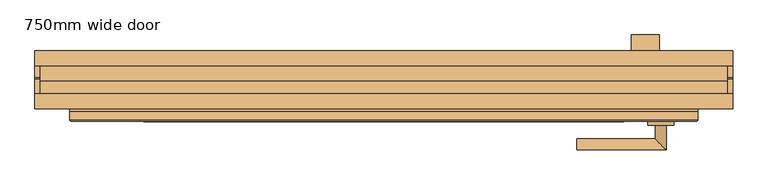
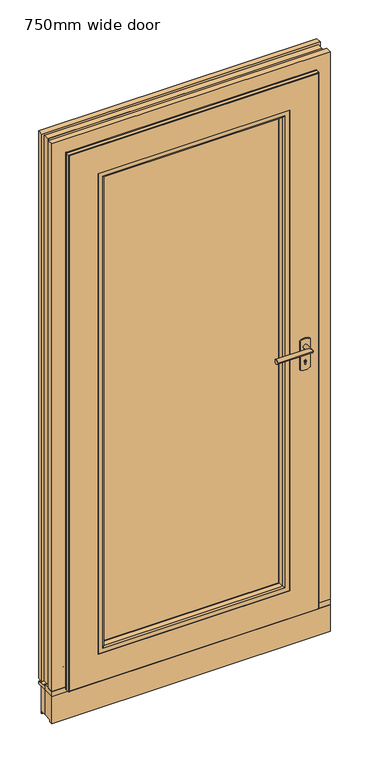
"""IFC4 building model written with IfcOpenShell, lengths in millimetres: door geometry, Doors_GEALAN_S9000_Front-Door : 750mm wide door."""

from ifc_helpers import new_model, si_unit, point, frame, frame_2d, origin, origin_with_axes, place, context, project, spatial, polyline, circle_curve, ellipse_curve, trimmed, segment, composite_curve, outline, extrude, faceted_brep, source, transform, mapped, element, save
from ifc_brep_helpers import plane_surface, cylinder_surface, revolved_surface, advanced_brep


def door_750mm_wide_door_e546be3d(model_context):
    return source(origin(), model_context, "Body", "SolidModel", [
        extrude(outline(polyline([(31.5, 680.9999998), (31.5, 693.9777955), (60.0111021, 693.9777955), (60.0111021, 1380.9999998), (31.5, 1380.9999998), (31.5, 1393.9777955), (72.9888979, 1393.9777955), (72.9888979, 680.9999998), (31.5, 680.9999998)])), frame((355.0988556, 0.0, 0.0), z_axis=(1.0, 0.0, 0.0), x_axis=(0.0, 1.0, 0.0)), (0.0, 0.0, 1.0), 39.8022889),
        advanced_brep(
        [(388.9719061, -56.0, 1030.9999998), (405.0280939, -56.0, 1030.9999998), (388.9719061, -75.4719061, 1030.9999998), (405.0280939, -91.5280939, 1030.9999998), (277.0, -75.4719061, 1030.9999998), (277.0, -91.5280939, 1030.9999998)],
        [
            (0, 1, circle_curve(frame((397.0, -56.0, 1030.9999998), z_axis=(0.0, 1.0, 0.0), x_axis=(1.0, 0.0, 0.0)), 8.0280939)),
            (1, 0, circle_curve(frame((397.0, -56.0, 1030.9999998), z_axis=(0.0, 1.0, 0.0), x_axis=(1.0, 0.0, 0.0)), 8.0280939)),
            (0, 2),
            (2, 3, ellipse_curve(frame((397.0, -83.5, 1030.9999998), z_axis=(0.7071067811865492, 0.7071067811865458, 0.0), x_axis=(-0.7071067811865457, 0.7071067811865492, 0.0)), 11.3534392, 8.0280939)),
            (3, 1),
            (3, 2, ellipse_curve(frame((397.0, -83.5, 1030.9999998), z_axis=(0.7071067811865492, 0.7071067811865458, 0.0), x_axis=(-0.7071067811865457, 0.7071067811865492, 0.0)), 11.3534392, 8.0280939)),
            (4, 5, circle_curve(frame((277.0, -83.5, 1030.9999998), z_axis=(-1.0, 0.0, 0.0), x_axis=(0.0, -1.0, 0.0)), 8.0280939)),
            (5, 4, circle_curve(frame((277.0, -83.5, 1030.9999998), z_axis=(-1.0, 0.0, 0.0), x_axis=(0.0, -1.0, 0.0)), 8.0280939)),
            (2, 4),
            (5, 3),
        ],
        [
            plane_surface(frame((397.0, -56.0, 1030.9999998), z_axis=(0.0, 1.0, 0.0), x_axis=(0.0, 0.0, 1.0))),
            cylinder_surface(frame((397.0, -56.0, 1030.9999998), z_axis=(0.0, 1.0, 0.0), x_axis=(1.0, 0.0, 0.0)), 8.0280939),
            plane_surface(frame((277.0, -83.5, 1030.9999998), z_axis=(-1.0, 0.0, 0.0), x_axis=(0.0, 0.0, 1.0))),
            cylinder_surface(frame((397.0, -83.5, 1030.9999998), z_axis=(1.0, 0.0, 0.0), x_axis=(0.0, -1.0, 0.0)), 8.0280939),
        ],
        [
            (0, [[1, 2]]),
            (1, [[-1, 3, 4, 5]]),
            (1, [[-2, -5, 6, -3]]),
            (2, [[7, 8]]),
            (3, [[-4, 9, -8, 10]]),
            (3, [[-6, -10, -7, -9]]),
        ],
    ),
        advanced_brep(
        [(397.0, -51.0, 1060.4999998), (415.5, -51.0, 1055.4999998), (415.5, -51.0, 947.4999998), (397.0, -51.0, 942.4999998), (378.5, -51.0, 947.4999998), (378.5, -51.0, 1055.4999998), (398.9792033, -51.0, 972.009504), (395.0207967, -51.0, 972.009504), (395.0207967, -51.0, 965.740473), (398.9792033, -51.0, 965.740473), (378.5, -56.0, 1055.4999998), (378.5, -56.0, 947.4999998), (397.0, -56.0, 1060.4999998), (397.0, -56.0, 942.4999998), (415.5, -56.0, 947.4999998), (415.5, -56.0, 1055.4999998), (395.0207967, -56.0, 972.009504), (398.9792033, -56.0, 972.009504), (398.9792033, -56.0, 965.740473), (395.0207967, -56.0, 965.740473)],
        [
            (0, 1, circle_curve(frame((397.0, -51.0, 1023.7749998), z_axis=(0.0, 1.0, 0.0), x_axis=(1.0, 0.0, 0.0)), 36.725)),
            (1, 2),
            (2, 3, circle_curve(frame((397.0, -51.0, 979.2249998), z_axis=(0.0, 1.0, 0.0), x_axis=(1.0, 0.0, 0.0)), 36.725)),
            (3, 4, circle_curve(frame((397.0, -51.0, 979.2249998), z_axis=(0.0, 1.0, 0.0), x_axis=(1.0, 0.0, 0.0)), 36.725)),
            (4, 5),
            (5, 0, circle_curve(frame((397.0, -51.0, 1023.7749998), z_axis=(0.0, 1.0, 0.0), x_axis=(1.0, 0.0, 0.0)), 36.725)),
            (6, 7, circle_curve(frame((397.0, -51.0, 975.5006417), z_axis=(0.0, -1.0, 0.0), x_axis=(1.0, 0.0, 0.0)), 4.0131394)),
            (7, 8),
            (8, 9, circle_curve(frame((397.0, -51.0, 965.740473), z_axis=(0.0, -1.0, 0.0), x_axis=(1.0, 0.0, 0.0)), 1.9792033)),
            (9, 6),
            (10, 5),
            (4, 11),
            (11, 10),
            (12, 10, circle_curve(frame((397.0, -56.0, 1023.7749998), z_axis=(0.0, -1.0, 0.0), x_axis=(1.0, 0.0, 0.0)), 36.725)),
            (11, 13, circle_curve(frame((397.0, -56.0, 979.2249998), z_axis=(0.0, -1.0, 0.0), x_axis=(1.0, 0.0, 0.0)), 36.725)),
            (13, 14, circle_curve(frame((397.0, -56.0, 979.2249998), z_axis=(0.0, -1.0, 0.0), x_axis=(1.0, 0.0, 0.0)), 36.725)),
            (14, 15),
            (15, 12, circle_curve(frame((397.0, -56.0, 1023.7749998), z_axis=(0.0, -1.0, 0.0), x_axis=(1.0, 0.0, 0.0)), 36.725)),
            (16, 17, circle_curve(frame((397.0, -56.0, 975.5006417), z_axis=(0.0, 1.0, 0.0), x_axis=(1.0, 0.0, 0.0)), 4.0131394)),
            (17, 18),
            (18, 19, circle_curve(frame((397.0, -56.0, 965.740473), z_axis=(0.0, 1.0, 0.0), x_axis=(1.0, 0.0, 0.0)), 1.9792033)),
            (19, 16),
            (1, 15),
            (14, 2),
            (6, 17),
            (16, 7),
            (19, 8),
            (18, 9),
        ],
        [
            plane_surface(frame((415.5, -51.0, 1060.4999998), z_axis=(0.0, 1.0, 0.0), x_axis=(0.0, 0.0, -1.0))),
            plane_surface(frame((378.5, -51.0, 1060.4999998), z_axis=(-1.0, 0.0, 0.0), x_axis=(0.0, 0.0, -1.0))),
            plane_surface(frame((378.5, -56.0, 1060.4999998), z_axis=(0.0, -1.0, 0.0), x_axis=(0.0, 0.0, -1.0))),
            plane_surface(frame((415.5, -56.0, 1060.4999998), z_axis=(1.0, 0.0, 0.0), x_axis=(0.0, 0.0, -1.0))),
            revolved_surface(polyline([(401.0131394, -56.0, 975.5006417), (401.0131394, -51.0, 975.5006417)]), (397.0, -46.0, 975.5006417), (0.0, -1.0, 0.0)),
            plane_surface(frame((395.0207967, -296.0, 972.009504), z_axis=(1.0, 0.0, 0.0), x_axis=(0.0, 1.0, 0.0))),
            revolved_surface(polyline([(398.9792033, -56.0, 965.740473), (398.9792033, -51.0, 965.740473)]), (397.0, -46.0, 965.740473), (0.0, -1.0, 0.0)),
            plane_surface(frame((398.9792033, -296.0, 965.740473), z_axis=(-1.0, 0.0, 0.0), x_axis=(0.0, 1.0, 0.0))),
            cylinder_surface(frame((397.0, -46.0, 1023.7749998), z_axis=(0.0, 1.0, 0.0), x_axis=(1.0, 0.0, 0.0)), 36.725),
            cylinder_surface(frame((397.0, -46.0, 979.2249998), z_axis=(0.0, 1.0, 0.0), x_axis=(1.0, 0.0, 0.0)), 36.725),
        ],
        [
            (0, [[1, 2, 3, 4, 5, 6], [7, 8, 9, 10]]),
            (1, [[11, -5, 12, 13]]),
            (2, [[14, -13, 15, 16, 17, 18], [19, 20, 21, 22]]),
            (3, [[23, -17, 24, -2]]),
            (4, [[25, -19, 26, -7]]),
            (5, [[-26, -22, 27, -8]]),
            (6, [[-27, -21, 28, -9]]),
            (7, [[-25, -10, -28, -20]]),
            (8, [[-1, -6, -11, -14, -18, -23]]),
            (9, [[-4, -3, -24, -16, -15, -12]]),
        ],
    ),
        extrude(outline(polyline([(-339.0, 13.5), (339.0, 13.5), (339.0, -26.5), (-339.0, -26.5), (-339.0, 13.5)])), frame((0.0, 0.0, 122.9999998), z_axis=(0.0, 0.0, 1.0), x_axis=(1.0, 0.0, 0.0)), (0.0, 0.0, 1.0), 1816.0),
        extrude(outline(polyline([(129.2876963, -332.7123035), (129.2876963, 332.7123035), (1932.7123033, 332.7123035), (1932.7123033, -332.7123035), (129.2876963, -332.7123035)]), holes=[polyline([(1917.7123033, -317.7123035), (1917.7123033, 317.7123035), (144.2876963, 317.7123035), (144.2876963, -317.7123035), (1917.7123033, -317.7123035)])]), frame((0.0, 13.5, 0.0), z_axis=(0.0, 1.0, 0.0), x_axis=(0.0, 0.0, 1.0)), (0.0, 0.0, 1.0), 3.0),
        extrude(outline(polyline([(132.4987826, -329.5012172), (132.4987826, 329.5012172), (1929.501217, 329.5012172), (1929.501217, -329.5012172), (132.4987826, -329.5012172)]), holes=[polyline([(1918.001217, -318.0012172), (1918.001217, 318.0012172), (143.9987826, 318.0012172), (143.9987826, -318.0012172), (1918.001217, -318.0012172)])]), frame((0.0, -29.0, 0.0), z_axis=(0.0, 1.0, 0.0), x_axis=(0.0, 0.0, 1.0)), (0.0, 0.0, 1.0), 2.5),
        extrude(outline(polyline([(11.9999998, -450.0), (11.9999998, 450.0), (2049.9999998, 450.0), (2049.9999998, -450.0), (11.9999998, -450.0)]), holes=[polyline([(2041.1999998, -441.2), (2041.1999998, 441.2), (20.7999998, 441.2), (20.7999998, -441.2), (2041.1999998, -441.2)])]), frame((0.0, -36.0, 0.0), z_axis=(0.0, 1.0, 0.0), x_axis=(0.0, 0.0, 1.0)), (0.0, 0.0, 1.0), 3.5),
        advanced_brep(
        [(-325.9578203, 31.4881012, 1925.95782), (-320.5399484, 27.0529143, 1920.5399482), (-320.5399484, 27.0529143, 141.4600514), (-325.9578203, 31.4881012, 136.0421795), (-421.9644818, 10.0317805, 2021.9644816), (-421.9644818, 31.4881012, 2021.9644816), (-421.9644818, 31.4881012, 40.0355179), (-421.9644818, 10.0317805, 40.0355179), (-430.0, -10.0, 2029.9999998), (-430.0, 10.0317805, 2029.9999998), (-430.0, 10.0317805, 31.9999998), (-430.0, -10.0, 31.9999998), (-348.1, 16.5, 1948.0999998), (-348.1, -10.0, 1948.0999998), (-348.1, -10.0, 113.8999998), (-348.1, 16.5, 113.8999998), (-317.7123035, 16.5, 1917.7123033), (-317.7123035, 16.5, 144.2876963), (320.5399484, 27.0529143, 141.4600514), (325.9578203, 31.4881012, 136.0421795), (421.9644818, 31.4881012, 40.0355179), (421.9644818, 10.0317805, 40.0355179), (430.0, 10.0317805, 31.9999998), (430.0, -10.0, 31.9999998), (348.1, -10.0, 113.8999998), (348.1, 16.5, 113.8999998), (317.7123035, 16.5, 144.2876963), (320.5399484, 27.0529143, 1920.5399482), (325.9578203, 31.4881012, 1925.95782), (421.9644818, 31.4881012, 2021.9644816), (421.9644818, 10.0317805, 2021.9644816), (430.0, 10.0317805, 2029.9999998), (430.0, -10.0, 2029.9999998), (348.1, -10.0, 1948.0999998), (348.1, 16.5, 1948.0999998), (317.7123035, 16.5, 1917.7123033)],
        [
            (0, 1, ellipse_curve(frame((-326.3355033, 25.5, 1926.3355031), z_axis=(-0.7071067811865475, 0.0, -0.7071067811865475), x_axis=(-0.7071067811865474, 0.0, 0.7071067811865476)), 8.4852814, 6.0)),
            (1, 2),
            (2, 3, ellipse_curve(frame((-326.3355033, 25.5, 135.6644965), z_axis=(-0.7071067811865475, 0.0, 0.7071067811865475), x_axis=(0.7071067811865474, 0.0, 0.7071067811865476)), 8.4852814, 6.0)),
            (3, 0),
            (4, 5),
            (5, 6),
            (6, 7),
            (7, 4),
            (8, 9),
            (9, 10),
            (10, 11),
            (11, 8),
            (12, 13),
            (13, 14),
            (14, 15),
            (15, 12),
            (1, 16),
            (16, 17),
            (17, 2),
            (2, 18),
            (18, 19, ellipse_curve(frame((326.3355033, 25.5, 135.6644965), z_axis=(-0.7071067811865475, 0.0, -0.7071067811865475), x_axis=(-0.7071067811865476, 0.0, 0.7071067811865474)), 8.4852814, 6.0)),
            (19, 3),
            (6, 20),
            (20, 21),
            (21, 7),
            (10, 22),
            (22, 23),
            (23, 11),
            (14, 24),
            (24, 25),
            (25, 15),
            (17, 26),
            (26, 18),
            (18, 27),
            (27, 28, ellipse_curve(frame((326.3355033, 25.5, 1926.3355031), z_axis=(0.7071067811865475, 0.0, -0.7071067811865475), x_axis=(-0.7071067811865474, 0.0, -0.7071067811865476)), 8.4852814, 6.0)),
            (28, 19),
            (20, 29),
            (29, 30),
            (30, 21),
            (22, 31),
            (31, 32),
            (32, 23),
            (24, 33),
            (33, 34),
            (34, 25),
            (26, 35),
            (35, 27),
            (27, 1),
            (0, 28),
            (5, 29),
            (4, 30),
            (9, 31),
            (8, 32),
            (13, 33),
            (12, 34),
            (16, 35),
        ],
        [
            cylinder_surface(frame((-326.3355033, 25.5, 2049.9999998), z_axis=(0.0, 0.0, 1.0), x_axis=(0.0, -1.0, 0.0)), 6.0),
            plane_surface(frame((-421.9644818, 31.4881012, 2021.9644816), z_axis=(-1.0, 0.0, 0.0), x_axis=(0.0, 0.0, -1.0))),
            plane_surface(frame((-430.0, 10.0317805, 2029.9999998), z_axis=(-1.0, 0.0, 0.0), x_axis=(0.0, 0.0, -1.0))),
            plane_surface(frame((-348.1, -10.0, 1948.0999998), z_axis=(1.0, 0.0, 0.0), x_axis=(0.0, 0.0, -1.0))),
            plane_surface(frame((-317.7123035, 16.5, 1917.7123033), z_axis=(0.9659258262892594, 0.25881904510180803, 0.0), x_axis=(0.0, 0.0, -1.0))),
            cylinder_surface(frame((-450.0, 25.5, 135.6644965), z_axis=(-1.0, 0.0, 0.0), x_axis=(0.0, -1.0, 0.0)), 6.0),
            plane_surface(frame((-421.9644818, 31.4881012, 40.0355179), z_axis=(0.0, 0.0, -1.0), x_axis=(1.0, 0.0, 0.0))),
            plane_surface(frame((-430.0, 10.0317805, 31.9999998), z_axis=(0.0, 0.0, -1.0), x_axis=(1.0, 0.0, 0.0))),
            plane_surface(frame((-348.1, -10.0, 113.8999998), z_axis=(0.0, 0.0, 1.0), x_axis=(1.0, 0.0, 0.0))),
            plane_surface(frame((-317.7123035, 16.5, 144.2876963), z_axis=(0.0, 0.25881904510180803, 0.9659258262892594), x_axis=(1.0, 0.0, 0.0))),
            cylinder_surface(frame((326.3355033, 25.5, 11.9999998), z_axis=(0.0, 0.0, -1.0), x_axis=(0.0, -1.0, 0.0)), 6.0),
            plane_surface(frame((421.9644818, 31.4881012, 40.0355179), z_axis=(1.0, 0.0, 0.0), x_axis=(0.0, 0.0, 1.0))),
            plane_surface(frame((430.0, 10.0317805, 31.9999998), z_axis=(1.0, 0.0, 0.0), x_axis=(0.0, 0.0, 1.0))),
            plane_surface(frame((348.1, -10.0, 113.8999998), z_axis=(-1.0, 0.0, 0.0), x_axis=(0.0, 0.0, 1.0))),
            plane_surface(frame((317.7123035, 16.5, 144.2876963), z_axis=(-0.9659258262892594, 0.25881904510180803, 0.0), x_axis=(0.0, 0.0, 1.0))),
            cylinder_surface(frame((450.0, 25.5, 1926.3355031), z_axis=(1.0, 0.0, 0.0), x_axis=(0.0, -1.0, 0.0)), 6.0),
            plane_surface(frame((325.9578203, 31.4881012, 1925.95782), z_axis=(0.0, 1.0, 0.0), x_axis=(-1.0, 0.0, 0.0))),
            plane_surface(frame((421.9644818, 31.4881012, 2021.9644816), z_axis=(0.0, 0.0, 1.0), x_axis=(-1.0, 0.0, 0.0))),
            plane_surface(frame((421.9644818, 10.0317805, 2021.9644816), z_axis=(0.0, 1.0, 0.0), x_axis=(-1.0, 0.0, 0.0))),
            plane_surface(frame((430.0, 10.0317805, 2029.9999998), z_axis=(0.0, 0.0, 1.0), x_axis=(-1.0, 0.0, 0.0))),
            plane_surface(frame((430.0, -10.0, 2029.9999998), z_axis=(0.0, -1.0, 0.0), x_axis=(-1.0, 0.0, 0.0))),
            plane_surface(frame((348.1, -10.0, 1948.0999998), z_axis=(0.0, 0.0, -1.0), x_axis=(-1.0, 0.0, 0.0))),
            plane_surface(frame((348.1, 16.5, 1948.0999998), z_axis=(0.0, -1.0, 0.0), x_axis=(-1.0, 0.0, 0.0))),
            plane_surface(frame((317.7123035, 16.5, 1917.7123033), z_axis=(0.0, 0.25881904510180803, -0.9659258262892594), x_axis=(-1.0, 0.0, 0.0))),
        ],
        [
            (0, [[1, 2, 3, 4]]),
            (1, [[5, 6, 7, 8]]),
            (2, [[9, 10, 11, 12]]),
            (3, [[13, 14, 15, 16]]),
            (4, [[17, 18, 19, -2]]),
            (5, [[-3, 20, 21, 22]]),
            (6, [[-7, 23, 24, 25]]),
            (7, [[-11, 26, 27, 28]]),
            (8, [[-15, 29, 30, 31]]),
            (9, [[-19, 32, 33, -20]]),
            (10, [[-21, 34, 35, 36]]),
            (11, [[-24, 37, 38, 39]]),
            (12, [[-27, 40, 41, 42]]),
            (13, [[-30, 43, 44, 45]]),
            (14, [[-33, 46, 47, -34]]),
            (15, [[-35, 48, -1, 49]]),
            (16, [[50, -37, -23, -6], [-22, -36, -49, -4]]),
            (17, [[-38, -50, -5, 51]]),
            (18, [[52, -40, -26, -10], [-25, -39, -51, -8]]),
            (19, [[-41, -52, -9, 53]]),
            (20, [[-28, -42, -53, -12], [54, -43, -29, -14]]),
            (21, [[-44, -54, -13, 55]]),
            (22, [[-31, -45, -55, -16], [56, -46, -32, -18]]),
            (23, [[-47, -56, -17, -48]]),
        ],
    ),
        advanced_brep(
        [(-450.0, -48.5, 2049.9999998), (-450.0, -36.0, 2049.9999998), (-450.0, -36.0, 11.9999998), (-450.0, -48.5, 11.9999998), (-447.5, -51.0, 2047.4999998), (-447.5, -51.0, 14.4999998), (-344.0, -51.0, 1943.9999998), (-344.0, -51.0, 117.9999998), (-344.0, -39.0718587, 117.9999998), (-344.0, -39.0718587, 1943.9999998), (-348.1, -10.0, 1948.0999998), (-348.1, -39.0718587, 1948.0999998), (-348.1, -39.0718587, 113.8999998), (-348.1, -10.0, 113.8999998), (-430.0, -36.0, 2029.9999998), (-430.0, -10.0, 2029.9999998), (-430.0, -10.0, 31.9999998), (-430.0, -36.0, 31.9999998), (450.0, -36.0, 11.9999998), (450.0, -48.5, 11.9999998), (447.5, -51.0, 14.4999998), (344.0, -51.0, 117.9999998), (344.0, -39.0718587, 117.9999998), (348.1, -39.0718587, 113.8999998), (348.1, -10.0, 113.8999998), (430.0, -10.0, 31.9999998), (430.0, -36.0, 31.9999998), (450.0, -36.0, 2049.9999998), (450.0, -48.5, 2049.9999998), (447.5, -51.0, 2047.4999998), (344.0, -51.0, 1943.9999998), (344.0, -39.0718587, 1943.9999998), (348.1, -39.0718587, 1948.0999998), (348.1, -10.0, 1948.0999998), (430.0, -10.0, 2029.9999998), (430.0, -36.0, 2029.9999998)],
        [
            (0, 1),
            (1, 2),
            (2, 3),
            (3, 0),
            (4, 0, ellipse_curve(frame((-447.5, -48.5, 2047.4999998), z_axis=(-0.7071067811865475, 0.0, -0.7071067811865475), x_axis=(-0.7071067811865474, 0.0, 0.7071067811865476)), 3.5355339, 2.5)),
            (3, 5, ellipse_curve(frame((-447.5, -48.5, 14.4999998), z_axis=(-0.7071067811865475, 0.0, 0.7071067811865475), x_axis=(0.7071067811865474, 0.0, 0.7071067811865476)), 3.5355339, 2.5)),
            (5, 4),
            (6, 7),
            (7, 8),
            (8, 9),
            (9, 6),
            (10, 11),
            (11, 12),
            (12, 13),
            (13, 10),
            (14, 15),
            (15, 16),
            (16, 17),
            (17, 14),
            (2, 18),
            (18, 19),
            (19, 3),
            (19, 20, ellipse_curve(frame((447.5, -48.5, 14.4999998), z_axis=(-0.7071067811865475, 0.0, -0.7071067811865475), x_axis=(-0.7071067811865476, 0.0, 0.7071067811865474)), 3.5355339, 2.5)),
            (20, 5),
            (7, 21),
            (21, 22),
            (22, 8),
            (12, 23),
            (23, 24),
            (24, 13),
            (16, 25),
            (25, 26),
            (26, 17),
            (18, 27),
            (27, 28),
            (28, 19),
            (28, 29, ellipse_curve(frame((447.5, -48.5, 2047.4999998), z_axis=(0.7071067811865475, 0.0, -0.7071067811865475), x_axis=(-0.7071067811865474, 0.0, -0.7071067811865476)), 3.5355339, 2.5)),
            (29, 20),
            (21, 30),
            (30, 31),
            (31, 22),
            (23, 32),
            (32, 33),
            (33, 24),
            (25, 34),
            (34, 35),
            (35, 26),
            (27, 1),
            (0, 28),
            (4, 29),
            (6, 30),
            (9, 31),
            (11, 32),
            (10, 33),
            (15, 34),
            (14, 35),
        ],
        [
            plane_surface(frame((-450.0, -36.0, 2049.9999998), z_axis=(-1.0, 0.0, 0.0), x_axis=(0.0, 0.0, -1.0))),
            cylinder_surface(frame((-447.5, -48.5, 2049.9999998), z_axis=(0.0, 0.0, 1.0), x_axis=(0.0, -1.0, 0.0)), 2.5),
            plane_surface(frame((-344.0, -43.7, 1943.9999998), z_axis=(1.0, 0.0, 0.0), x_axis=(0.0, 0.0, -1.0))),
            plane_surface(frame((-348.1, -39.0718587, 1948.0999998), z_axis=(1.0, 0.0, 0.0), x_axis=(0.0, 0.0, -1.0))),
            plane_surface(frame((-430.0, -10.0, 2029.9999998), z_axis=(-1.0, 0.0, 0.0), x_axis=(0.0, 0.0, -1.0))),
            plane_surface(frame((-450.0, -36.0, 11.9999998), z_axis=(0.0, 0.0, -1.0), x_axis=(1.0, 0.0, 0.0))),
            cylinder_surface(frame((-450.0, -48.5, 14.4999998), z_axis=(-1.0, 0.0, 0.0), x_axis=(0.0, -1.0, 0.0)), 2.5),
            plane_surface(frame((-344.0, -43.7, 117.9999998), z_axis=(0.0, 0.0, 1.0), x_axis=(1.0, 0.0, 0.0))),
            plane_surface(frame((-348.1, -39.0718587, 113.8999998), z_axis=(0.0, 0.0, 1.0), x_axis=(1.0, 0.0, 0.0))),
            plane_surface(frame((-430.0, -10.0, 31.9999998), z_axis=(0.0, 0.0, -1.0), x_axis=(1.0, 0.0, 0.0))),
            plane_surface(frame((450.0, -36.0, 11.9999998), z_axis=(1.0, 0.0, 0.0), x_axis=(0.0, 0.0, 1.0))),
            cylinder_surface(frame((447.5, -48.5, 11.9999998), z_axis=(0.0, 0.0, -1.0), x_axis=(0.0, -1.0, 0.0)), 2.5),
            plane_surface(frame((344.0, -43.7, 117.9999998), z_axis=(-1.0, 0.0, 0.0), x_axis=(0.0, 0.0, 1.0))),
            plane_surface(frame((348.1, -39.0718587, 113.8999998), z_axis=(-1.0, 0.0, 0.0), x_axis=(0.0, 0.0, 1.0))),
            plane_surface(frame((430.0, -10.0, 31.9999998), z_axis=(1.0, 0.0, 0.0), x_axis=(0.0, 0.0, 1.0))),
            plane_surface(frame((450.0, -36.0, 2049.9999998), z_axis=(0.0, 0.0, 1.0), x_axis=(-1.0, 0.0, 0.0))),
            cylinder_surface(frame((450.0, -48.5, 2047.4999998), z_axis=(1.0, 0.0, 0.0), x_axis=(0.0, -1.0, 0.0)), 2.5),
            plane_surface(frame((447.5, -51.0, 2047.4999998), z_axis=(0.0, -1.0, 0.0), x_axis=(-1.0, 0.0, 0.0))),
            plane_surface(frame((344.0, -43.7, 1943.9999998), z_axis=(0.0, 0.0, -1.0), x_axis=(-1.0, 0.0, 0.0))),
            plane_surface(frame((344.0, -39.0718587, 1943.9999998), z_axis=(0.0, 1.0, 0.0), x_axis=(-1.0, 0.0, 0.0))),
            plane_surface(frame((348.1, -39.0718587, 1948.0999998), z_axis=(0.0, 0.0, -1.0), x_axis=(-1.0, 0.0, 0.0))),
            plane_surface(frame((348.1, -10.0, 1948.0999998), z_axis=(0.0, 1.0, 0.0), x_axis=(-1.0, 0.0, 0.0))),
            plane_surface(frame((430.0, -10.0, 2029.9999998), z_axis=(0.0, 0.0, 1.0), x_axis=(-1.0, 0.0, 0.0))),
            plane_surface(frame((430.0, -36.0, 2029.9999998), z_axis=(0.0, 1.0, 0.0), x_axis=(-1.0, 0.0, 0.0))),
        ],
        [
            (0, [[1, 2, 3, 4]]),
            (1, [[5, -4, 6, 7]]),
            (2, [[8, 9, 10, 11]]),
            (3, [[12, 13, 14, 15]]),
            (4, [[16, 17, 18, 19]]),
            (5, [[-3, 20, 21, 22]]),
            (6, [[-6, -22, 23, 24]]),
            (7, [[-9, 25, 26, 27]]),
            (8, [[-14, 28, 29, 30]]),
            (9, [[-18, 31, 32, 33]]),
            (10, [[-21, 34, 35, 36]]),
            (11, [[-23, -36, 37, 38]]),
            (12, [[-26, 39, 40, 41]]),
            (13, [[-29, 42, 43, 44]]),
            (14, [[-32, 45, 46, 47]]),
            (15, [[-35, 48, -1, 49]]),
            (16, [[-37, -49, -5, 50]]),
            (17, [[-24, -38, -50, -7], [51, -39, -25, -8]]),
            (18, [[-40, -51, -11, 52]]),
            (19, [[53, -42, -28, -13], [-27, -41, -52, -10]]),
            (20, [[-43, -53, -12, 54]]),
            (21, [[55, -45, -31, -17], [-30, -44, -54, -15]]),
            (22, [[-46, -55, -16, 56]]),
            (23, [[-48, -34, -20, -2], [-33, -47, -56, -19]]),
        ],
    ),
        extrude(outline(composite_curve([segment(trimmed(circle_curve(frame_2d((44.4032971, 32.7039134)), 4.9967036), [point((45.2682409, 37.6251855))], [point((49.4, 32.7011468))], False, "CARTESIAN"), True, "CONTINUOUS"), segment(polyline([(49.4, 32.7011468), (49.4, 31.2999998), (47.8, 31.2999998), (47.8, 32.7011468)]), True, "CONTINUOUS"), segment(trimmed(circle_curve(frame_2d((44.4, 32.7011468)), 3.4), [point((47.8, 32.7011468))], [point((44.9904038, 36.0494931))], True, "CARTESIAN"), True, "CONTINUOUS"), segment(polyline([(44.9904038, 36.0494931), (31.6600181, 38.3999998), (28.1, 38.3999998), (28.1, 31.7999998)]), True, "CONTINUOUS"), segment(trimmed(circle_curve(frame_2d((27.5, 31.7999998)), 0.6), [point((28.1, 31.7999998))], [point((26.9, 31.7999998))], False, "CARTESIAN"), True, "CONTINUOUS"), segment(polyline([(26.9, 31.7999998), (26.9, 33.0999998), (13.7227037, 33.0999998), (13.7227037, 19.9986184), (-2.1381869, 19.9986184), (-2.1381869, 31.9986184), (10.0618131, 31.9986184), (10.0618131, 34.6999998), (21.2, 34.6999998), (21.2, 39.9999998), (31.7562557, 39.9999998), (45.2682409, 37.6251855)]), True, "CONTINUOUS")], self_intersect=False)), frame((-416.0, 0.0, 0.0), z_axis=(1.0, 0.0, 0.0), x_axis=(0.0, 1.0, 0.0)), (0.0, 0.0, 1.0), 832.0),
        advanced_brep(
        [(-321.8959832, -45.0529143, 1921.895983), (-327.6915381, -49.5, 1927.6915379), (-327.6915381, -49.5, 134.3084616), (-321.8959832, -45.0529143, 140.1040166), (-318.0012172, -30.5174497, 1918.001217), (-318.0012172, -30.5174497, 143.9987826), (-318.0012172, -29.0, 1918.001217), (-318.0012172, -29.0, 143.9987826), (-331.1432253, -34.0, 1931.143225), (-329.8034793, -29.0, 1929.8034791), (-329.8034793, -29.0, 132.1965205), (-331.1432253, -34.0, 130.8567745), (-344.0, -34.0, 1943.9999998), (-344.0, -34.0, 117.9999998), (-344.0, -49.5, 117.9999998), (-344.0, -49.5, 1943.9999998), (327.6915381, -49.5, 134.3084616), (321.8959832, -45.0529143, 140.1040166), (318.0012172, -30.5174497, 143.9987826), (318.0012172, -29.0, 143.9987826), (329.8034793, -29.0, 132.1965205), (331.1432253, -34.0, 130.8567745), (344.0, -34.0, 117.9999998), (344.0, -49.5, 117.9999998), (327.6915381, -49.5, 1927.6915379), (321.8959832, -45.0529143, 1921.895983), (318.0012172, -30.5174497, 1918.001217), (318.0012172, -29.0, 1918.001217), (329.8034793, -29.0, 1929.8034791), (331.1432253, -34.0, 1931.143225), (344.0, -34.0, 1943.9999998), (344.0, -49.5, 1943.9999998)],
        [
            (0, 1, ellipse_curve(frame((-327.6915381, -43.5, 1927.6915379), z_axis=(-0.707106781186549, 0.0, -0.7071067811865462), x_axis=(-0.7071067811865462, 0.0, 0.7071067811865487)), 8.4852814, 6.0)),
            (1, 2),
            (2, 3, ellipse_curve(frame((-327.6915381, -43.5, 134.3084616), z_axis=(-0.7071067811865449, 0.0, 0.70710678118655), x_axis=(0.7071067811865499, 0.0, 0.707106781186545)), 8.4852814, 6.0)),
            (3, 0),
            (4, 0),
            (3, 5),
            (5, 4),
            (6, 4),
            (5, 7),
            (7, 6),
            (8, 9),
            (9, 10),
            (10, 11),
            (11, 8),
            (12, 13),
            (13, 14),
            (14, 15),
            (15, 12),
            (2, 16),
            (16, 17, ellipse_curve(frame((327.6915381, -43.5, 134.3084616), z_axis=(-0.7071067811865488, 0.0, -0.7071067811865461), x_axis=(-0.7071067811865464, 0.0, 0.7071067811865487)), 8.4852814, 6.0)),
            (17, 3),
            (17, 18),
            (18, 5),
            (18, 19),
            (19, 7),
            (10, 20),
            (20, 21),
            (21, 11),
            (13, 22),
            (22, 23),
            (23, 14),
            (16, 24),
            (24, 25, ellipse_curve(frame((327.6915381, -43.5, 1927.6915379), z_axis=(0.7071067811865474, 0.0, -0.7071067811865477), x_axis=(-0.7071067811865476, 0.0, -0.7071067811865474)), 8.4852814, 6.0)),
            (25, 17),
            (25, 26),
            (26, 18),
            (26, 27),
            (27, 19),
            (20, 28),
            (28, 29),
            (29, 21),
            (22, 30),
            (30, 31),
            (31, 23),
            (24, 1),
            (0, 25),
            (4, 26),
            (6, 27),
            (9, 28),
            (8, 29),
            (12, 30),
            (15, 31),
        ],
        [
            cylinder_surface(frame((-327.6915381, -43.5, 2049.9999998), z_axis=(0.0, 0.0, 1.0), x_axis=(0.9659258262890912, -0.2588190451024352, 0.0)), 6.0),
            plane_surface(frame((-321.8959832, -45.0529143, 1921.895983), z_axis=(0.9659258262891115, -0.25881904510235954, 0.0), x_axis=(0.0, 0.0, -1.0))),
            plane_surface(frame((-318.0012172, -30.5174497, 1918.001217), z_axis=(1.0, 0.0, 0.0), x_axis=(0.0, 0.0, -1.0))),
            plane_surface(frame((-329.8034793, -29.0, 1929.8034791), z_axis=(-0.9659258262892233, 0.2588190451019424, 0.0), x_axis=(0.0, 0.0, -1.0))),
            plane_surface(frame((-344.0, -48.5, 1943.9999998), z_axis=(-1.0, 0.0, 0.0), x_axis=(0.0, 0.0, -1.0))),
            cylinder_surface(frame((-450.0, -43.5, 134.3084616), z_axis=(-1.0, 0.0, 0.0), x_axis=(0.0, -0.2588190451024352, 0.9659258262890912)), 6.0),
            plane_surface(frame((-321.8959832, -45.0529143, 140.1040166), z_axis=(0.0, -0.25881904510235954, 0.9659258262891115), x_axis=(1.0, 0.0, 0.0))),
            plane_surface(frame((-318.0012172, -30.5174497, 143.9987826), z_axis=(0.0, 0.0, 1.0), x_axis=(1.0, 0.0, 0.0))),
            plane_surface(frame((-329.8034793, -29.0, 132.1965205), z_axis=(0.0, 0.2588190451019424, -0.9659258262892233), x_axis=(1.0, 0.0, 0.0))),
            plane_surface(frame((-344.0, -48.5, 117.9999998), z_axis=(0.0, 0.0, -1.0), x_axis=(1.0, 0.0, 0.0))),
            cylinder_surface(frame((327.6915381, -43.5, 11.9999998), z_axis=(0.0, 0.0, -1.0), x_axis=(-0.9659258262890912, -0.2588190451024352, 0.0)), 6.0),
            plane_surface(frame((321.8959832, -45.0529143, 140.1040166), z_axis=(-0.9659258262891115, -0.25881904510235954, 0.0), x_axis=(0.0, 0.0, 1.0))),
            plane_surface(frame((318.0012172, -30.5174497, 143.9987826), z_axis=(-1.0, 0.0, 0.0), x_axis=(0.0, 0.0, 1.0))),
            plane_surface(frame((329.8034793, -29.0, 132.1965205), z_axis=(0.9659258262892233, 0.2588190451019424, 0.0), x_axis=(0.0, 0.0, 1.0))),
            plane_surface(frame((344.0, -48.5, 117.9999998), z_axis=(1.0, 0.0, 0.0), x_axis=(0.0, 0.0, 1.0))),
            cylinder_surface(frame((450.0, -43.5, 1927.6915379), z_axis=(1.0, 0.0, 0.0), x_axis=(0.0, -0.2588190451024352, -0.9659258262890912)), 6.0),
            plane_surface(frame((321.8959832, -45.0529143, 1921.895983), z_axis=(0.0, -0.25881904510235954, -0.9659258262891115), x_axis=(-1.0, 0.0, 0.0))),
            plane_surface(frame((318.0012172, -30.5174497, 1918.001217), z_axis=(0.0, 0.0, -1.0), x_axis=(-1.0, 0.0, 0.0))),
            plane_surface(frame((318.0012172, -29.0, 1918.001217), z_axis=(0.0, 1.0, 0.0), x_axis=(-1.0, 0.0, 0.0))),
            plane_surface(frame((329.8034793, -29.0, 1929.8034791), z_axis=(0.0, 0.2588190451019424, 0.9659258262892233), x_axis=(-1.0, 0.0, 0.0))),
            plane_surface(frame((331.1432253, -34.0, 1931.143225), z_axis=(0.0, 1.0, 0.0), x_axis=(-1.0, 0.0, 0.0))),
            plane_surface(frame((344.0, -48.5, 1943.9999998), z_axis=(0.0, 0.0, 1.0), x_axis=(-1.0, 0.0, 0.0))),
            plane_surface(frame((344.0, -49.5, 1943.9999998), z_axis=(0.0, -1.0, 0.0), x_axis=(-1.0, 0.0, 0.0))),
        ],
        [
            (0, [[1, 2, 3, 4]]),
            (1, [[5, -4, 6, 7]]),
            (2, [[8, -7, 9, 10]]),
            (3, [[11, 12, 13, 14]]),
            (4, [[15, 16, 17, 18]]),
            (5, [[-3, 19, 20, 21]]),
            (6, [[-6, -21, 22, 23]]),
            (7, [[-9, -23, 24, 25]]),
            (8, [[-13, 26, 27, 28]]),
            (9, [[-16, 29, 30, 31]]),
            (10, [[-20, 32, 33, 34]]),
            (11, [[-22, -34, 35, 36]]),
            (12, [[-24, -36, 37, 38]]),
            (13, [[-27, 39, 40, 41]]),
            (14, [[-30, 42, 43, 44]]),
            (15, [[-33, 45, -1, 46]]),
            (16, [[-35, -46, -5, 47]]),
            (17, [[-37, -47, -8, 48]]),
            (18, [[49, -39, -26, -12], [-25, -38, -48, -10]]),
            (19, [[-40, -49, -11, 50]]),
            (20, [[51, -42, -29, -15], [-28, -41, -50, -14]]),
            (21, [[-43, -51, -18, 52]]),
            (22, [[-31, -44, -52, -17], [-45, -32, -19, -2]]),
        ],
    ),
        extrude(outline(polyline([(9.5, 0.0), (9.5, -94.0), (-20.0, -94.0), (-20.0, -102.0), (-32.5, -102.0), (-32.5, 0.0), (9.5, 0.0)])), frame((-500.0, 0.0, 0.0), z_axis=(1.0, 0.0, 0.0), x_axis=(0.0, 1.0, 0.0)), (0.0, 0.0, 1.0), 1000.0),
        extrude(outline(polyline([(33.5, 0.0), (33.5, -102.0), (29.0, -102.0), (29.0, -94.0), (9.5, -94.0), (9.5, 0.0), (33.5, 0.0)])), frame((-500.0, 0.0, 0.0), z_axis=(1.0, 0.0, 0.0), x_axis=(0.0, 1.0, 0.0)), (0.0, 0.0, 1.0), 1000.0),
        extrude(outline(polyline([(500.0, 9.5), (500.0, -32.5), (-500.0, -32.5), (-500.0, 9.5), (500.0, 9.5)])), origin_with_axes(), (0.0, 0.0, 1.0), 20.0),
        extrude(outline(composite_curve([segment(trimmed(circle_curve(frame_2d((44.0, 5.9)), 6.0), [point((44.7312161, 11.8552769))], [point((50.0, 5.9))], False, "CARTESIAN"), True, "CONTINUOUS"), segment(polyline([(50.0, 5.9), (50.0, 0.0), (9.5, 0.0), (9.5, 20.0), (12.2, 20.0), (12.2, 15.849608), (44.7312161, 11.8552769)]), True, "CONTINUOUS")], self_intersect=False)), frame((-500.0, 0.0, 0.0), z_axis=(1.0, 0.0, 0.0), x_axis=(0.0, 1.0, 0.0)), (0.0, 0.0, 1.0), 1000.0),
        advanced_brep(
        [(416.0, 36.02771, 2016.0), (418.5522708, 45.5529143, 2018.5522708), (418.5522708, 45.5529143, 20.0), (416.0, 36.02771, 20.0), (416.0, 35.0, 2016.0), (416.0, 35.0, 20.0), (446.1, 20.9886714, 2046.1), (449.0781998, 35.0, 2049.0781998), (449.0781998, 35.0, 20.0), (446.1, 20.9886714, 20.0), (446.1, 7.5, 2046.1), (446.1, 7.5, 20.0), (492.0, 29.0, 2092.0), (492.0, 7.5, 2092.0), (492.0, 7.5, 20.0), (492.0, 29.0, 20.0), (500.0, 50.0, 2100.0), (500.0, 29.0, 2100.0), (500.0, 29.0, 20.0), (500.0, 50.0, 20.0), (424.3478258, 50.0, 2024.3478258), (424.3478258, 50.0, 20.0), (-416.0, 36.02771, 20.0), (-418.5522708, 45.5529143, 20.0), (-418.5522708, 45.5529143, 2018.5522708), (-416.0, 36.02771, 2016.0), (-416.0, 35.0, 20.0), (-416.0, 35.0, 2016.0), (-446.1, 20.9886714, 20.0), (-449.0781998, 35.0, 20.0), (-449.0781998, 35.0, 2049.0781998), (-446.1, 20.9886714, 2046.1), (-446.1, 7.5, 20.0), (-446.1, 7.5, 2046.1), (-492.0, 29.0, 20.0), (-492.0, 7.5, 20.0), (-492.0, 7.5, 2092.0), (-492.0, 29.0, 2092.0), (-500.0, 50.0, 20.0), (-500.0, 29.0, 20.0), (-500.0, 29.0, 2100.0), (-500.0, 50.0, 2100.0), (-424.3478258, 50.0, 20.0), (-424.3478258, 50.0, 2024.3478258)],
        [
            (0, 1),
            (1, 2),
            (2, 3),
            (3, 0),
            (4, 0),
            (3, 5),
            (5, 4),
            (6, 7),
            (7, 8),
            (8, 9),
            (9, 6),
            (10, 6),
            (9, 11),
            (11, 10),
            (12, 13),
            (13, 14),
            (14, 15),
            (15, 12),
            (16, 17),
            (17, 18),
            (18, 19),
            (19, 16),
            (1, 20, ellipse_curve(frame((424.3478258, 44.0, 2024.3478258), z_axis=(0.7071067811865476, 0.0, -0.7071067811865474), x_axis=(0.7071067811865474, 0.0, 0.7071067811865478)), 8.4852814, 6.0)),
            (20, 21),
            (21, 2, circle_curve(frame((424.3478258, 44.0, 20.0), z_axis=(0.0, 0.0, 1.0), x_axis=(0.0, 1.0, 0.0)), 6.0)),
            (22, 23),
            (23, 24),
            (24, 25),
            (25, 22),
            (26, 22),
            (25, 27),
            (27, 26),
            (28, 29),
            (29, 30),
            (30, 31),
            (31, 28),
            (32, 28),
            (31, 33),
            (33, 32),
            (34, 35),
            (35, 36),
            (36, 37),
            (37, 34),
            (38, 39),
            (39, 40),
            (40, 41),
            (41, 38),
            (23, 42, circle_curve(frame((-424.3478258, 44.0, 20.0), z_axis=(0.0, 0.0, 1.0), x_axis=(0.0, 1.0, 0.0)), 6.0)),
            (42, 43),
            (43, 24, ellipse_curve(frame((-424.3478258, 44.0, 2024.3478258), z_axis=(-0.707106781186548, 0.0, -0.707106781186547), x_axis=(0.707106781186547, 0.0, -0.707106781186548)), 8.4852814, 6.0)),
            (24, 1),
            (0, 25),
            (4, 27),
            (30, 7),
            (6, 31),
            (10, 33),
            (36, 13),
            (12, 37),
            (40, 17),
            (16, 41),
            (43, 20),
            (26, 29),
            (32, 35),
            (34, 39),
            (38, 42),
            (21, 19),
            (18, 15),
            (14, 11),
            (8, 5),
        ],
        [
            plane_surface(frame((418.5522708, 45.5529143, 2018.5522708), z_axis=(-0.9659258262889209, 0.25881904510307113, 0.0), x_axis=(0.0, 0.0, -1.0))),
            plane_surface(frame((416.0, 36.02771, 2016.0), z_axis=(-1.0, 0.0, 0.0), x_axis=(0.0, 0.0, -1.0))),
            plane_surface(frame((449.0781998, 35.0, 2049.0781998), z_axis=(-0.9781476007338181, 0.20791169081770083, 0.0), x_axis=(0.0, 0.0, -1.0))),
            plane_surface(frame((446.1, 20.9886714, 2046.1), z_axis=(-1.0, 0.0, 0.0), x_axis=(0.0, 0.0, -1.0))),
            plane_surface(frame((492.0, 7.5, 2092.0), z_axis=(1.0, 0.0, 0.0), x_axis=(0.0, 0.0, -1.0))),
            plane_surface(frame((500.0, 29.0, 2100.0), z_axis=(1.0, 0.0, 0.0), x_axis=(0.0, 0.0, -1.0))),
            cylinder_surface(frame((424.3478258, 44.0, 2100.0), z_axis=(0.0, 0.0, 1.0), x_axis=(0.0, 1.0, 0.0)), 6.0),
            plane_surface(frame((-418.5522708, 45.5529143, 20.0), z_axis=(0.9659258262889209, 0.25881904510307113, 0.0), x_axis=(0.0, 0.0, 1.0))),
            plane_surface(frame((-416.0, 36.02771, 20.0), z_axis=(1.0, 0.0, 0.0), x_axis=(0.0, 0.0, 1.0))),
            plane_surface(frame((-449.0781998, 35.0, 20.0), z_axis=(0.9781476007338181, 0.20791169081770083, 0.0), x_axis=(0.0, 0.0, 1.0))),
            plane_surface(frame((-446.1, 20.9886714, 20.0), z_axis=(1.0, 0.0, 0.0), x_axis=(0.0, 0.0, 1.0))),
            plane_surface(frame((-492.0, 7.5, 20.0), z_axis=(-1.0, 0.0, 0.0), x_axis=(0.0, 0.0, 1.0))),
            plane_surface(frame((-500.0, 29.0, 20.0), z_axis=(-1.0, 0.0, 0.0), x_axis=(0.0, 0.0, 1.0))),
            cylinder_surface(frame((-424.3478258, 44.0, 20.0), z_axis=(0.0, 0.0, -1.0), x_axis=(0.0, 1.0, 0.0)), 6.0),
            plane_surface(frame((-418.5522708, 45.5529143, 2018.5522708), z_axis=(0.0, 0.25881904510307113, -0.9659258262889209), x_axis=(1.0, 0.0, 0.0))),
            plane_surface(frame((-416.0, 36.02771, 2016.0), z_axis=(0.0, 0.0, -1.0), x_axis=(1.0, 0.0, 0.0))),
            plane_surface(frame((-449.0781998, 35.0, 2049.0781998), z_axis=(0.0, 0.20791169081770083, -0.9781476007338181), x_axis=(1.0, 0.0, 0.0))),
            plane_surface(frame((-446.1, 20.9886714, 2046.1), z_axis=(0.0, 0.0, -1.0), x_axis=(1.0, 0.0, 0.0))),
            plane_surface(frame((-492.0, 7.5, 2092.0), z_axis=(0.0, 0.0, 1.0), x_axis=(1.0, 0.0, 0.0))),
            plane_surface(frame((-500.0, 29.0, 2100.0), z_axis=(0.0, 0.0, 1.0), x_axis=(1.0, 0.0, 0.0))),
            cylinder_surface(frame((-500.0, 44.0, 2024.3478258), z_axis=(-1.0, 0.0, 0.0), x_axis=(0.0, 1.0, 0.0)), 6.0),
            plane_surface(frame((-500.0, -32.5, 20.0), z_axis=(0.0, 0.0, -1.0), x_axis=(0.0, -1.0, 0.0))),
            plane_surface(frame((500.0, -32.5, 20.0), z_axis=(0.0, 0.0, -1.0), x_axis=(0.0, -1.0, 0.0))),
            plane_surface(frame((-417.0, 35.0, 20.0), z_axis=(0.0, -1.0, 0.0), x_axis=(0.0, 0.0, 1.0))),
            plane_surface(frame((-446.1, 7.5, 20.0), z_axis=(0.0, -1.0, 0.0), x_axis=(0.0, 0.0, 1.0))),
            plane_surface(frame((-492.0, 29.0, 20.0), z_axis=(0.0, -1.0, 0.0), x_axis=(0.0, 0.0, 1.0))),
            plane_surface(frame((-500.0, 50.0, 20.0), z_axis=(0.0, 1.0, 0.0), x_axis=(0.0, 0.0, 1.0))),
        ],
        [
            (0, [[1, 2, 3, 4]]),
            (1, [[5, -4, 6, 7]]),
            (2, [[8, 9, 10, 11]]),
            (3, [[12, -11, 13, 14]]),
            (4, [[15, 16, 17, 18]]),
            (5, [[19, 20, 21, 22]]),
            (6, [[23, 24, 25, -2]]),
            (7, [[26, 27, 28, 29]]),
            (8, [[30, -29, 31, 32]]),
            (9, [[33, 34, 35, 36]]),
            (10, [[37, -36, 38, 39]]),
            (11, [[40, 41, 42, 43]]),
            (12, [[44, 45, 46, 47]]),
            (13, [[48, 49, 50, -27]]),
            (14, [[-28, 51, -1, 52]]),
            (15, [[-31, -52, -5, 53]]),
            (16, [[-35, 54, -8, 55]]),
            (17, [[-38, -55, -12, 56]]),
            (18, [[-42, 57, -15, 58]]),
            (19, [[-46, 59, -19, 60]]),
            (20, [[-50, 61, -23, -51]]),
            (21, [[-26, -30, 62, -33, -37, 63, -40, 64, -44, 65, -48]]),
            (22, [[-25, 66, -21, 67, -17, 68, -13, -10, 69, -6, -3]]),
            (23, [[-32, -53, -7, -69, -9, -54, -34, -62]]),
            (24, [[-63, -39, -56, -14, -68, -16, -57, -41]]),
            (25, [[-64, -43, -58, -18, -67, -20, -59, -45]]),
            (26, [[-65, -47, -60, -22, -66, -24, -61, -49]]),
        ],
    ),
        faceted_brep([(442.0, -32.5, 2042.0), (442.0, -21.25, 2042.0), (442.0, -21.25, 20.0), (442.0, -32.5, 20.0), (500.0, -32.5, 2100.0), (500.0, -32.5, 20.0), (500.0, -11.5, 20.0), (500.0, -11.5, 2100.0), (492.0, 7.5, 2092.0), (492.0, -11.5, 2092.0), (492.0, -11.5, 20.0), (492.0, 7.5, 20.0), (446.1, -21.25, 2046.1), (446.1, 7.5, 2046.1), (446.1, 7.5, 20.0), (446.1, -21.25, 20.0), (-442.0, -32.5, 20.0), (-442.0, -21.25, 20.0), (-442.0, -21.25, 2042.0), (-442.0, -32.5, 2042.0), (-500.0, -32.5, 20.0), (-500.0, -32.5, 2100.0), (-500.0, -11.5, 2100.0), (-500.0, -11.5, 20.0), (-492.0, 7.5, 20.0), (-492.0, -11.5, 20.0), (-492.0, -11.5, 2092.0), (-492.0, 7.5, 2092.0), (-446.1, -21.25, 20.0), (-446.1, 7.5, 20.0), (-446.1, 7.5, 2046.1), (-446.1, -21.25, 2046.1)], [[[0, 1, 2, 3]], [[4, 5, 6, 7]], [[8, 9, 10, 11]], [[12, 13, 14, 15]], [[16, 17, 18, 19]], [[20, 21, 22, 23]], [[24, 25, 26, 27]], [[28, 29, 30, 31]], [[19, 18, 1, 0]], [[22, 21, 4, 7]], [[27, 26, 9, 8]], [[31, 30, 13, 12]], [[17, 16, 20, 23, 25, 24, 29, 28]], [[2, 15, 14, 11, 10, 6, 5, 3]], [[20, 16, 19, 0, 3, 5, 4, 21]], [[25, 23, 22, 7, 6, 10, 9, 26]], [[29, 24, 27, 8, 11, 14, 13, 30]], [[17, 28, 31, 12, 15, 2, 1, 18]]]),
        extrude(outline(polyline([(20.0, -446.1), (20.0, -425.0), (2025.0, -425.0), (2025.0, 425.0), (20.0, 425.0), (20.0, 446.1), (2046.1, 446.1), (2046.1, -446.1), (20.0, -446.1)])), frame((0.0, 10.0, 0.0), z_axis=(0.0, 1.0, 0.0), x_axis=(0.0, 0.0, 1.0)), (0.0, 0.0, 1.0), 5.3),
        extrude(outline(polyline([(20.0, -423.8), (20.0, -416.0), (2016.0, -416.0), (2016.0, 416.0), (20.0, 416.0), (20.0, 423.8), (2023.8, 423.8), (2023.8, -423.8), (20.0, -423.8)])), frame((0.0, 31.5, 0.0), z_axis=(0.0, 1.0, 0.0), x_axis=(0.0, 0.0, 1.0)), (0.0, 0.0, 1.0), 3.5),
    ])


if __name__ == "__main__":
    model = new_model("IFC4")
    model_context = context("Model", 3, world=origin())
    ifc_project = project(units=[si_unit("LENGTHUNIT", "METRE", prefix="MILLI")], contexts=[model_context])
    site = spatial("IfcSite", under=ifc_project)
    building = spatial("IfcBuilding", under=site)
    placement = place(None, origin())
    door_750mm_wide_door_shape = door_750mm_wide_door_e546be3d(model_context)
    element("IfcDoor", 1, ObjectType="Doors_GEALAN_S9000_Front-Door : 750mm wide door", at=placement, inside=building, context=model_context, shape_type="MappedRepresentation", body=[
        mapped(door_750mm_wide_door_shape, transform((0.0, 0.0, 0.0), x_axis=(1.0, 0.0, 0.0), y_axis=(0.0, 1.0, 0.0), z_axis=(0.0, 0.0, 1.0))),
    ])
    save(model, "model.ifc")
